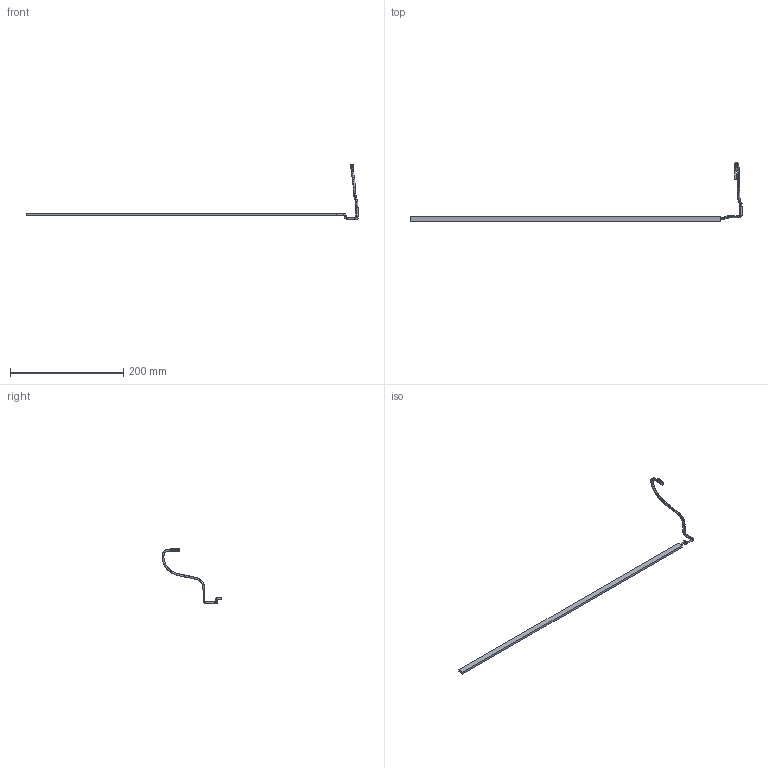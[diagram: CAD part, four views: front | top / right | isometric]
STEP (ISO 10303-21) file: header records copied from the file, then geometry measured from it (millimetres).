
FILE_DESCRIPTION (( 'STEP AP214' ), '1' );
FILE_NAME ('46601000.STEP', '2024-03-12T08:38:10', ( '' ), ( '' ), 'SwSTEP 2.0', 'SolidWorks 2022', '' );
FILE_SCHEMA (( 'AUTOMOTIVE_DESIGN' ));
Length unit declared in the file: millimetre
Products named in the file (4): Strip^KiaroLed_Strip550_00; KiaroLed_ConnettoreMaschio_00; Cavo^KiaroLed_Strip550_00; 46601000
Assembly tree (3 placements, depth 2):
  46601000
    Strip^KiaroLed_Strip550_00
    KiaroLed_ConnettoreMaschio_00
    Cavo^KiaroLed_Strip550_00
Bounding box: 587.45 x 105.79 x 96.6 mm (x, y, z)
Volume: 24246 mm3; surface area: 18382.8 mm2
Topology: 3 solids, 3 shells, 127 faces, 324 edges, 200 vertices
Faces by surface type: plane 94, bspline 30, cylinder 3
Entity records: 4540 total; most frequent: CARTESIAN_POINT 1407, ORIENTED_EDGE 648, DIRECTION 570, EDGE_CURVE 324, VECTOR 276, LINE 276, VERTEX_POINT 200, AXIS2_PLACEMENT_3D 147
